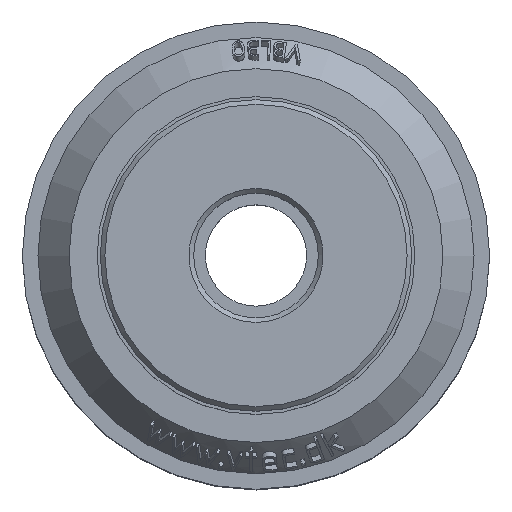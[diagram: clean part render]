
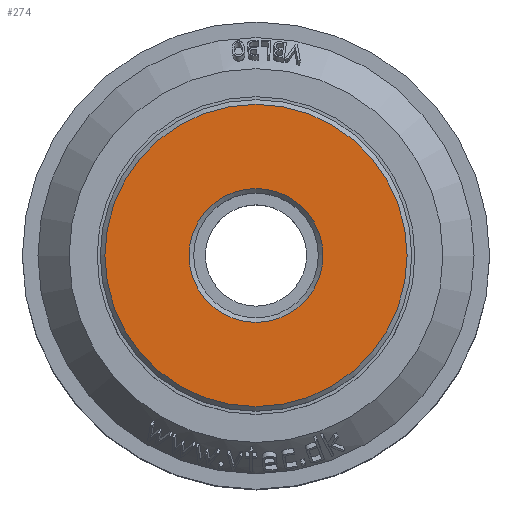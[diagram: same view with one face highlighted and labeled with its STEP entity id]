
A CAD part, top view. The second image highlights one B-rep face of the part: STEP entity #274.
In plain terms, the highlighted planar face has unit normal (0, 0, 1).
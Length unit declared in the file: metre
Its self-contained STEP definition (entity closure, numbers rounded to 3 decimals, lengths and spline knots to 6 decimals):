
#274 = ADVANCED_FACE( '', ( #745, #746 ), #747, .F. );
#745 = FACE_BOUND( '', #4250, .T. );
#746 = FACE_OUTER_BOUND( '', #4251, .T. );
#747 = PLANE( '', #4252 );
#4250 = EDGE_LOOP( '', ( #5342 ) );
#4251 = EDGE_LOOP( '', ( #5343 ) );
#4252 = AXIS2_PLACEMENT_3D( '', #5344, #5345, #5346 );
#5342 = ORIENTED_EDGE( '', *, *, #5751, .T. );
#5343 = ORIENTED_EDGE( '', *, *, #5472, .T. );
#5344 = CARTESIAN_POINT( '', ( -0.004, 0., 0.016 ) );
#5345 = DIRECTION( '', ( 0., 0., -1. ) );
#5346 = DIRECTION( '', ( -1., 0., 0. ) );
#5472 = EDGE_CURVE( '', #6032, #6032, #6033, .F. );
#5751 = EDGE_CURVE( '', #6461, #6461, #6462, .T. );
#6032 = VERTEX_POINT( '', #7519 );
#6033 = CIRCLE( '', #7520, 0.0097 );
#6461 = VERTEX_POINT( '', #9132 );
#6462 = CIRCLE( '', #9133, 0.0043 );
#7519 = CARTESIAN_POINT( '', ( -0.0097, 0., 0.016 ) );
#7520 = AXIS2_PLACEMENT_3D( '', #9221, #9222, #9223 );
#9132 = CARTESIAN_POINT( '', ( -0.0043, 0., 0.016 ) );
#9133 = AXIS2_PLACEMENT_3D( '', #9344, #9345, #9346 );
#9221 = CARTESIAN_POINT( '', ( 0., 0., 0.016 ) );
#9222 = DIRECTION( '', ( 0., 0., -1. ) );
#9223 = DIRECTION( '', ( -1., 0., 0. ) );
#9344 = CARTESIAN_POINT( '', ( 0., 0., 0.016 ) );
#9345 = DIRECTION( '', ( 0., 0., -1. ) );
#9346 = DIRECTION( '', ( -1., 0., 0. ) );
